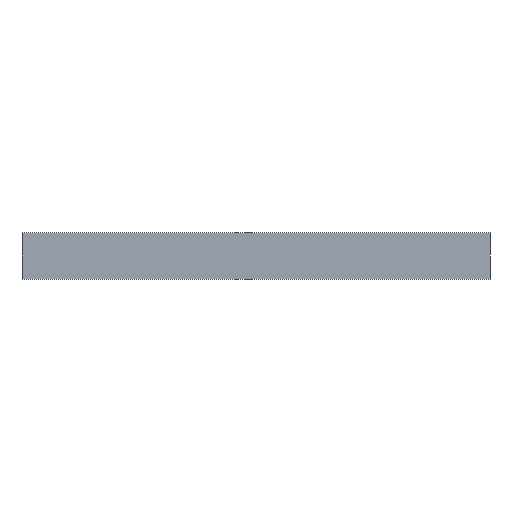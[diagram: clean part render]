
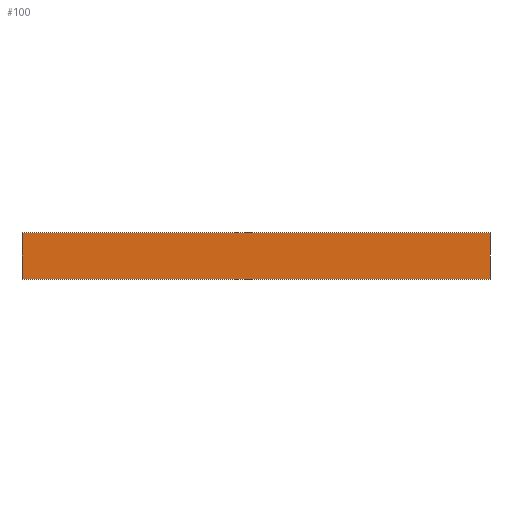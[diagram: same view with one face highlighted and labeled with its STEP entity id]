
A CAD part, front view. The second image highlights one B-rep face of the part: STEP entity #100.
In plain terms, the highlighted planar face has unit normal (0, -1, 0).
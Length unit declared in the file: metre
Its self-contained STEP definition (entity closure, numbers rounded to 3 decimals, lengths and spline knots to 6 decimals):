
#20=ORIENTED_EDGE('',*,*,#43,.T.);
#21=ORIENTED_EDGE('',*,*,#42,.T.);
#22=ORIENTED_EDGE('',*,*,#44,.F.);
#23=ORIENTED_EDGE('',*,*,#45,.F.);
#42=EDGE_CURVE('',#52,#53,#62,.T.);
#43=EDGE_CURVE('',#54,#52,#63,.T.);
#44=EDGE_CURVE('',#55,#53,#64,.F.);
#45=EDGE_CURVE('',#54,#55,#65,.T.);
#52=VERTEX_POINT('',#153);
#53=VERTEX_POINT('',#155);
#54=VERTEX_POINT('',#159);
#55=VERTEX_POINT('',#161);
#62=LINE('',#156,#74);
#63=LINE('',#158,#75);
#64=LINE('',#160,#76);
#65=LINE('',#162,#77);
#74=VECTOR('',#127,1.);
#75=VECTOR('',#130,1.);
#76=VECTOR('',#131,1.);
#77=VECTOR('',#132,1.);
#82=EDGE_LOOP('',(#20,#21,#22,#23));
#88=FACE_BOUND('',#82,.T.);
#94=PLANE('',#111);
#100=ADVANCED_FACE('',(#88),#94,.T.);
#111=AXIS2_PLACEMENT_3D('',#157,#128,#129);
#127=DIRECTION('',(0.,0.,1.));
#128=DIRECTION('',(0.,-1.,0.));
#129=DIRECTION('',(1.,0.,0.));
#130=DIRECTION('',(1.,0.,0.));
#131=DIRECTION('',(-1.,0.,0.));
#132=DIRECTION('',(0.,0.,1.));
#153=CARTESIAN_POINT('',(0.03439,0.003775,-0.0269));
#155=CARTESIAN_POINT('',(0.03439,0.003775,-0.02689));
#156=CARTESIAN_POINT('',(0.03439,0.003775,-0.0269));
#157=CARTESIAN_POINT('',(0.03429,0.003775,-0.0269));
#158=CARTESIAN_POINT('',(0.03429,0.003775,-0.0269));
#159=CARTESIAN_POINT('',(0.03429,0.003775,-0.0269));
#160=CARTESIAN_POINT('',(0.035348,0.003775,-0.02689));
#161=CARTESIAN_POINT('',(0.03429,0.003775,-0.02689));
#162=CARTESIAN_POINT('',(0.03429,0.003775,-0.0269));
